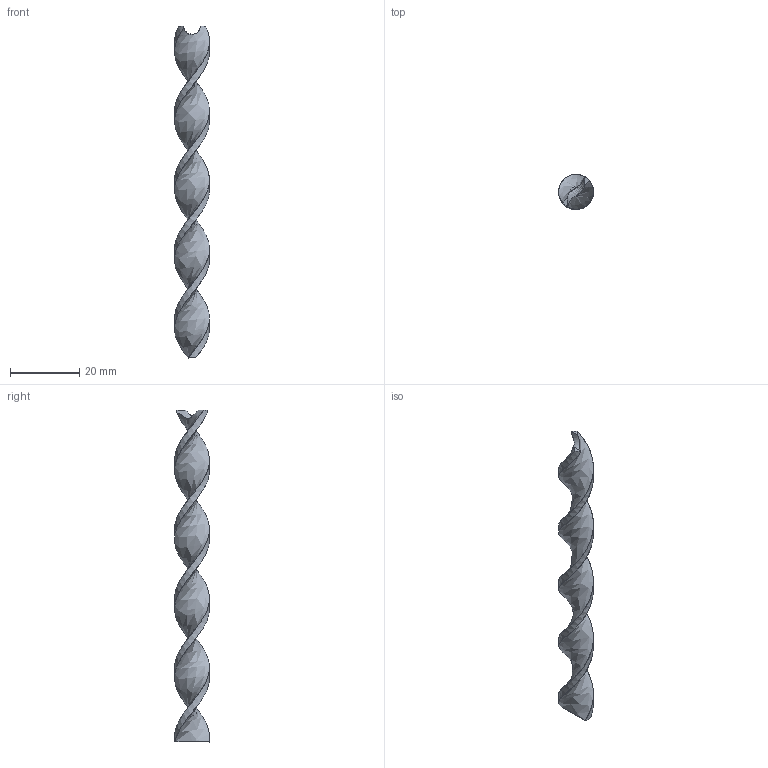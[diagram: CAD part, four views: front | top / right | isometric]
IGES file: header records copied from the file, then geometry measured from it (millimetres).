
Global section: file name: E:\UnigraphicsGraphicData\MISUMI_MOLD-PARTS\NX\3d_wrcbn10-96_00639_r00.igs; native system: NX V5.0; preprocessor: UGS NX IGES V5.0; author: MISUMI; date: 20101115.183650; units: millimetre
Bounding box: 10.1 x 10.09 x 96 mm (x, y, z)
Surface area: 2525.3 mm2 (no closed solid volume)
Topology: 0 solids, 0 shells, 8 faces, 48 edges, 48 vertices
Faces by surface type: bspline 8
